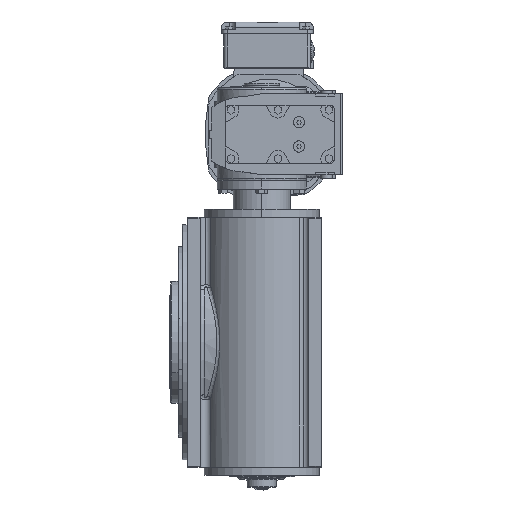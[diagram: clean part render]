
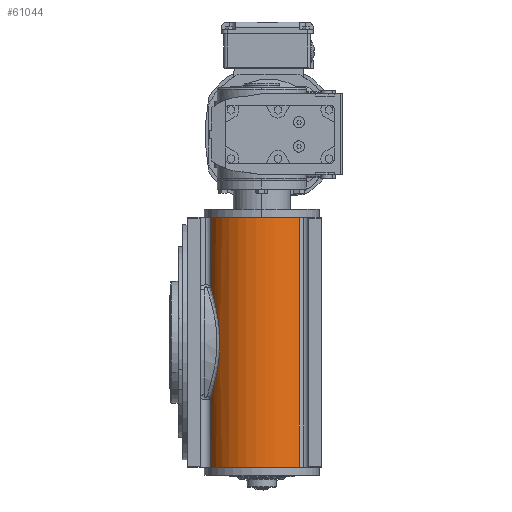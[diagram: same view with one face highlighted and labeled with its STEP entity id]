
A CAD part, left-side view. The second image highlights one B-rep face of the part: STEP entity #61044.
In plain terms, the highlighted cylindrical face has radius 71 mm (diameter 142 mm), a partial arc.
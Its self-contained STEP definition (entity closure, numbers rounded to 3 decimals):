
#475 = CARTESIAN_POINT ( 'NONE',  ( -133.018, 134.012, 58.125 ) ) ;
#519 = DIRECTION ( 'NONE',  ( 0., 0., 1. ) ) ;
#954 = CARTESIAN_POINT ( 'NONE',  ( -142.345, 126.918, 23.884 ) ) ;
#1412 = CARTESIAN_POINT ( 'NONE',  ( -139.32, 129.475, 38.415 ) ) ;
#1880 = CARTESIAN_POINT ( 'NONE',  ( -138.584, 130.076, -41.542 ) ) ;
#2163 = CARTESIAN_POINT ( 'NONE',  ( -128.109, 136.808, -500000. ) ) ;
#2354 = CARTESIAN_POINT ( 'NONE',  ( -144.04, 125.343, -6.17 ) ) ;
#3371 = ORIENTED_EDGE ( 'NONE', *, *, #58648, .F. ) ;
#4177 = ORIENTED_EDGE ( 'NONE', *, *, #5573, .T. ) ;
#5187 = DIRECTION ( 'NONE',  ( 0., 0., 1. ) ) ;
#5573 = EDGE_CURVE ( 'NONE', #58842, #52442, #15923, .T. ) ;
#7738 = CARTESIAN_POINT ( 'NONE',  ( -141.962, 127.251, -25.6 ) ) ;
#8695 = CARTESIAN_POINT ( 'NONE',  ( -142.631, 126.653, -21.138 ) ) ;
#9635 = CARTESIAN_POINT ( 'NONE',  ( -142.199, 127.041, -24.119 ) ) ;
#9904 = DIRECTION ( 'NONE',  ( 0., 0., 1. ) ) ;
#10260 = VERTEX_POINT ( 'NONE', #44288 ) ;
#10937 = AXIS2_PLACEMENT_3D ( 'NONE', #21978, #5187, #20120 ) ;
#14939 = CARTESIAN_POINT ( 'NONE',  ( -144.049, 125.334, 2.839 ) ) ;
#15206 = DIRECTION ( 'NONE',  ( 1., 0., 0. ) ) ;
#15401 = CARTESIAN_POINT ( 'NONE',  ( -138.57, 130.069, 41.275 ) ) ;
#15923 = LINE ( 'NONE', #60393, #76975 ) ;
#16848 = CARTESIAN_POINT ( 'NONE',  ( -143.351, 125.993, 14.878 ) ) ;
#20120 = DIRECTION ( 'NONE',  ( 1., 0., 0. ) ) ;
#21353 = VECTOR ( 'NONE', #9904, 1000. ) ;
#21978 = CARTESIAN_POINT ( 'NONE',  ( -95., 74., -154. ) ) ;
#22394 = CARTESIAN_POINT ( 'NONE',  ( -128.109, 136.808, -68.859 ) ) ;
#22632 = CARTESIAN_POINT ( 'NONE',  ( -130.722, 135.43, -63.561 ) ) ;
#22982 = DIRECTION ( 'NONE',  ( 1., 0., 0. ) ) ;
#29877 = CARTESIAN_POINT ( 'NONE',  ( -141.327, 127.831, 29.758 ) ) ;
#30415 = AXIS2_PLACEMENT_3D ( 'NONE', #81387, #44707, #15206 ) ;
#30428 = CARTESIAN_POINT ( 'NONE',  ( -128.109, 136.808, -154. ) ) ;
#30634 = LINE ( 'NONE', #2163, #21353 ) ;
#30837 = CARTESIAN_POINT ( 'NONE',  ( -141.192, 127.924, -30.015 ) ) ;
#31409 = EDGE_CURVE ( 'NONE', #56524, #51101, #57233, .T. ) ;
#31786 = CARTESIAN_POINT ( 'NONE',  ( -140.598, 128.429, -32.922 ) ) ;
#33827 = VERTEX_POINT ( 'NONE', #56173 ) ;
#35045 = CYLINDRICAL_SURFACE ( 'NONE', #10937, 71. ) ;
#37175 = CARTESIAN_POINT ( 'NONE',  ( -136.93, 131.346, -47.157 ) ) ;
#37507 = CARTESIAN_POINT ( 'NONE',  ( -95., 74., -154. ) ) ;
#38135 = CARTESIAN_POINT ( 'NONE',  ( -143.713, 125.653, 10.36 ) ) ;
#38619 = CARTESIAN_POINT ( 'NONE',  ( -143.692, 125.681, -12.164 ) ) ;
#40899 = ORIENTED_EDGE ( 'NONE', *, *, #31409, .T. ) ;
#43726 = CARTESIAN_POINT ( 'NONE',  ( -128.109, 136.808, 500000. ) ) ;
#44288 = CARTESIAN_POINT ( 'NONE',  ( -128.109, 136.808, 154. ) ) ;
#44433 = CARTESIAN_POINT ( 'NONE',  ( -130.725, 135.429, 63.555 ) ) ;
#44675 = DIRECTION ( 'NONE',  ( 0., 0., -1. ) ) ;
#44707 = DIRECTION ( 'NONE',  ( 0., 0., 1. ) ) ;
#48381 = ORIENTED_EDGE ( 'NONE', *, *, #76007, .T. ) ;
#49271 = B_SPLINE_CURVE_WITH_KNOTS ( 'NONE', 3,
 ( #82062, #44433, #475, #68533, #74340, #73864, #75777, #15401, #1412, #29877, #954, #74827, #16848, #68057, #38135, #51638, #14939, #2354, #38619, #88795, #8695, #9635, #7738, #30837, #31786, #1880, #37175, #66611, #22632, #52112 ),
 .UNSPECIFIED., .F., .F.,
 ( 4, 2, 2, 2, 2, 2, 2, 2, 2, 2, 2, 2, 2, 2, 4 ),
 ( 0., 0.018, 0.023, 0.027, 0.036, 0.055, 0.059, 0.064, 0.073, 0.091, 0.095, 0.1, 0.109, 0.127, 0.145 ),
 .UNSPECIFIED. ) ;
#51101 = VERTEX_POINT ( 'NONE', #30428 ) ;
#51465 = FACE_OUTER_BOUND ( 'NONE', #81619, .T. ) ;
#51638 = CARTESIAN_POINT ( 'NONE',  ( -143.967, 125.413, 5.846 ) ) ;
#52112 = CARTESIAN_POINT ( 'NONE',  ( -128.109, 136.808, -68.859 ) ) ;
#52442 = VERTEX_POINT ( 'NONE', #57203 ) ;
#55529 = EDGE_CURVE ( 'NONE', #51101, #58842, #55952, .T. ) ;
#55952 = CIRCLE ( 'NONE', #76024, 71. ) ;
#56173 = CARTESIAN_POINT ( 'NONE',  ( -128.109, 136.808, 68.859 ) ) ;
#56524 = VERTEX_POINT ( 'NONE', #22394 ) ;
#56601 = CIRCLE ( 'NONE', #30415, 71. ) ;
#57203 = CARTESIAN_POINT ( 'NONE',  ( -148.721, 27.577, 154. ) ) ;
#57233 = LINE ( 'NONE', #43726, #78291 ) ;
#58500 = ORIENTED_EDGE ( 'NONE', *, *, #65081, .F. ) ;
#58648 = EDGE_CURVE ( 'NONE', #10260, #52442, #56601, .T. ) ;
#58842 = VERTEX_POINT ( 'NONE', #61718 ) ;
#60393 = CARTESIAN_POINT ( 'NONE',  ( -148.721, 27.577, -154. ) ) ;
#61044 = ADVANCED_FACE ( 'NONE', ( #51465 ), #35045, .T. ) ;
#61718 = CARTESIAN_POINT ( 'NONE',  ( -148.721, 27.577, -154. ) ) ;
#61835 = ORIENTED_EDGE ( 'NONE', *, *, #55529, .T. ) ;
#65081 = EDGE_CURVE ( 'NONE', #33827, #10260, #30634, .T. ) ;
#66611 = CARTESIAN_POINT ( 'NONE',  ( -132.999, 134.023, -58.167 ) ) ;
#68057 = CARTESIAN_POINT ( 'NONE',  ( -143.607, 125.753, 11.865 ) ) ;
#68533 = CARTESIAN_POINT ( 'NONE',  ( -135.5, 132.319, 51.157 ) ) ;
#73864 = CARTESIAN_POINT ( 'NONE',  ( -136.889, 131.329, 46.942 ) ) ;
#74340 = CARTESIAN_POINT ( 'NONE',  ( -135.977, 131.984, 49.755 ) ) ;
#74827 = CARTESIAN_POINT ( 'NONE',  ( -143.2, 126.132, 16.387 ) ) ;
#75777 = CARTESIAN_POINT ( 'NONE',  ( -137.325, 131.008, 45.529 ) ) ;
#76007 = EDGE_CURVE ( 'NONE', #33827, #56524, #49271, .T. ) ;
#76024 = AXIS2_PLACEMENT_3D ( 'NONE', #37507, #83379, #22982 ) ;
#76975 = VECTOR ( 'NONE', #519, 1000. ) ;
#78291 = VECTOR ( 'NONE', #44675, 1000. ) ;
#81387 = CARTESIAN_POINT ( 'NONE',  ( -95., 74., 154. ) ) ;
#81619 = EDGE_LOOP ( 'NONE', ( #58500, #48381, #40899, #61835, #4177, #3371 ) ) ;
#82062 = CARTESIAN_POINT ( 'NONE',  ( -128.109, 136.808, 68.859 ) ) ;
#83379 = DIRECTION ( 'NONE',  ( 0., 0., 1. ) ) ;
#88795 = CARTESIAN_POINT ( 'NONE',  ( -142.826, 126.476, -19.641 ) ) ;
